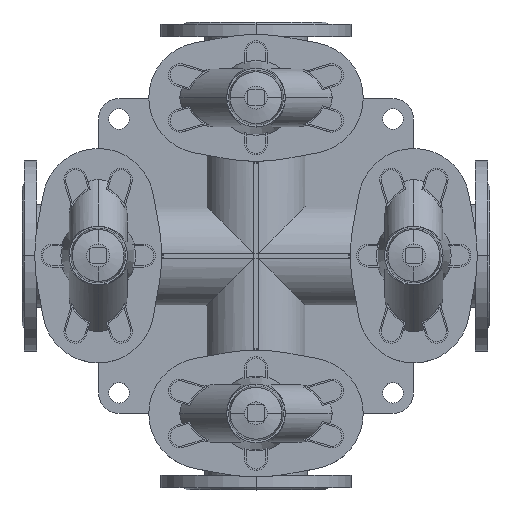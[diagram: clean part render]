
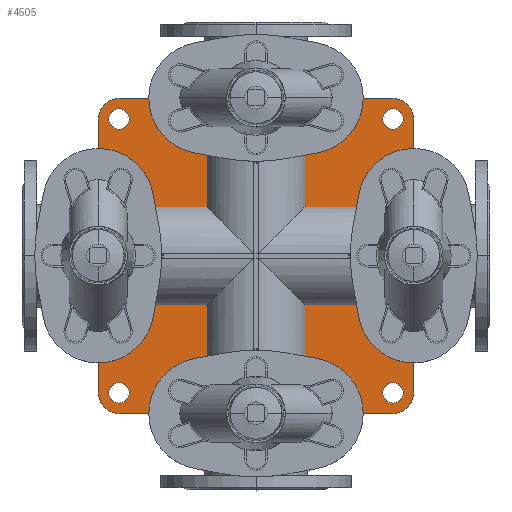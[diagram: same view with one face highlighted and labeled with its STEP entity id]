
A CAD part, top view. The second image highlights one B-rep face of the part: STEP entity #4505.
In plain terms, the highlighted planar face has unit normal (0, 0, 1).
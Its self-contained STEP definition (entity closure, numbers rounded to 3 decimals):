
#4505=ADVANCED_FACE('',(#9567,#9568,#9569,#9570,#9571),#9572,.F.);
#9567=FACE_BOUND('',#16791,.T.);
#9568=FACE_BOUND('',#16792,.T.);
#9569=FACE_BOUND('',#16793,.T.);
#9570=FACE_BOUND('',#16794,.T.);
#9571=FACE_OUTER_BOUND('',#16795,.T.);
#9572=PLANE('',#16796);
#16791=EDGE_LOOP('',(#24569,#24570));
#16792=EDGE_LOOP('',(#24571,#24572));
#16793=EDGE_LOOP('',(#24573,#24574));
#16794=EDGE_LOOP('',(#24575,#24576));
#16795=EDGE_LOOP('',(#24577,#24578,#24579,#24580,#24581,#24582,#24583,#24584));
#16796=AXIS2_PLACEMENT_3D('',#24585,#24586,#24587);
#24569=ORIENTED_EDGE('',*,*,#40059,.T.);
#24570=ORIENTED_EDGE('',*,*,#40060,.T.);
#24571=ORIENTED_EDGE('',*,*,#39598,.T.);
#24572=ORIENTED_EDGE('',*,*,#40061,.T.);
#24573=ORIENTED_EDGE('',*,*,#40062,.T.);
#24574=ORIENTED_EDGE('',*,*,#40063,.T.);
#24575=ORIENTED_EDGE('',*,*,#40064,.T.);
#24576=ORIENTED_EDGE('',*,*,#40065,.T.);
#24577=ORIENTED_EDGE('',*,*,#40066,.F.);
#24578=ORIENTED_EDGE('',*,*,#40067,.F.);
#24579=ORIENTED_EDGE('',*,*,#40068,.F.);
#24580=ORIENTED_EDGE('',*,*,#40069,.F.);
#24581=ORIENTED_EDGE('',*,*,#40070,.F.);
#24582=ORIENTED_EDGE('',*,*,#40071,.F.);
#24583=ORIENTED_EDGE('',*,*,#38639,.F.);
#24584=ORIENTED_EDGE('',*,*,#40072,.F.);
#24585=CARTESIAN_POINT('',(307.5,0.0,20.0));
#24586=DIRECTION('',(0.0,0.0,-1.0));
#24587=DIRECTION('',(-1.0,0.0,0.0));
#38639=EDGE_CURVE('',#45163,#45164,#45165,.T.);
#39598=EDGE_CURVE('',#46853,#46858,#46860,.T.);
#40059=EDGE_CURVE('',#47638,#47639,#47640,.T.);
#40060=EDGE_CURVE('',#47639,#47638,#47641,.T.);
#40061=EDGE_CURVE('',#46858,#46853,#47642,.T.);
#40062=EDGE_CURVE('',#47643,#47644,#47645,.T.);
#40063=EDGE_CURVE('',#47644,#47643,#47646,.T.);
#40064=EDGE_CURVE('',#47647,#47648,#47649,.T.);
#40065=EDGE_CURVE('',#47648,#47647,#47650,.T.);
#40066=EDGE_CURVE('',#47651,#47652,#47653,.T.);
#40067=EDGE_CURVE('',#47654,#47651,#47655,.T.);
#40068=EDGE_CURVE('',#47656,#47654,#47657,.T.);
#40069=EDGE_CURVE('',#47658,#47656,#47659,.T.);
#40070=EDGE_CURVE('',#47660,#47658,#47661,.T.);
#40071=EDGE_CURVE('',#45164,#47660,#47662,.T.);
#40072=EDGE_CURVE('',#47652,#45163,#47663,.T.);
#45163=VERTEX_POINT('',#54566);
#45164=VERTEX_POINT('',#54567);
#45165=LINE('',#54568,#54569);
#46853=VERTEX_POINT('',#56750);
#46858=VERTEX_POINT('',#56756);
#46860=CIRCLE('',#56759,13.5);
#47638=VERTEX_POINT('',#57747);
#47639=VERTEX_POINT('',#57748);
#47640=CIRCLE('',#57749,13.5);
#47641=CIRCLE('',#57750,13.5);
#47642=CIRCLE('',#57751,13.5);
#47643=VERTEX_POINT('',#57752);
#47644=VERTEX_POINT('',#57753);
#47645=CIRCLE('',#57754,13.5);
#47646=CIRCLE('',#57755,13.5);
#47647=VERTEX_POINT('',#57756);
#47648=VERTEX_POINT('',#57757);
#47649=CIRCLE('',#57758,13.5);
#47650=CIRCLE('',#57759,13.5);
#47651=VERTEX_POINT('',#57760);
#47652=VERTEX_POINT('',#57761);
#47653=LINE('',#57762,#57763);
#47654=VERTEX_POINT('',#57764);
#47655=CIRCLE('',#57765,27.0);
#47656=VERTEX_POINT('',#57766);
#47657=LINE('',#57767,#57768);
#47658=VERTEX_POINT('',#57769);
#47659=CIRCLE('',#57770,27.0);
#47660=VERTEX_POINT('',#57771);
#47661=LINE('',#57772,#57773);
#47662=CIRCLE('',#57774,27.0);
#47663=CIRCLE('',#57775,27.0);
#54566=CARTESIAN_POINT('',(100.5,-180.0,20.0));
#54567=CARTESIAN_POINT('',(100.5,180.0,20.0));
#54568=CARTESIAN_POINT('',(100.5,-180.0,20.0));
#54569=VECTOR('',#66513,1.0);
#56750=CARTESIAN_POINT('',(141.0,-180.0,20.0));
#56756=CARTESIAN_POINT('',(114.0,-180.0,20.0));
#56759=AXIS2_PLACEMENT_3D('',#67852,#67853,#67854);
#57747=CARTESIAN_POINT('',(141.0,180.0,20.0));
#57748=CARTESIAN_POINT('',(114.0,180.0,20.0));
#57749=AXIS2_PLACEMENT_3D('',#68512,#68513,#68514);
#57750=AXIS2_PLACEMENT_3D('',#68515,#68516,#68517);
#57751=AXIS2_PLACEMENT_3D('',#68518,#68519,#68520);
#57752=CARTESIAN_POINT('',(501.0,-180.0,20.0));
#57753=CARTESIAN_POINT('',(474.0,-180.0,20.0));
#57754=AXIS2_PLACEMENT_3D('',#68521,#68522,#68523);
#57755=AXIS2_PLACEMENT_3D('',#68524,#68525,#68526);
#57756=CARTESIAN_POINT('',(501.0,180.0,20.0));
#57757=CARTESIAN_POINT('',(474.0,180.0,20.0));
#57758=AXIS2_PLACEMENT_3D('',#68527,#68528,#68529);
#57759=AXIS2_PLACEMENT_3D('',#68530,#68531,#68532);
#57760=CARTESIAN_POINT('',(487.5,-207.0,20.0));
#57761=CARTESIAN_POINT('',(127.5,-207.0,20.0));
#57762=CARTESIAN_POINT('',(487.5,-207.0,20.0));
#57763=VECTOR('',#68533,1.0);
#57764=CARTESIAN_POINT('',(514.5,-180.0,20.0));
#57765=AXIS2_PLACEMENT_3D('',#68534,#68535,#68536);
#57766=CARTESIAN_POINT('',(514.5,180.0,20.0));
#57767=CARTESIAN_POINT('',(514.5,180.0,20.0));
#57768=VECTOR('',#68537,1.0);
#57769=CARTESIAN_POINT('',(487.5,207.0,20.0));
#57770=AXIS2_PLACEMENT_3D('',#68538,#68539,#68540);
#57771=CARTESIAN_POINT('',(127.5,207.0,20.0));
#57772=CARTESIAN_POINT('',(127.5,207.0,20.0));
#57773=VECTOR('',#68541,1.0);
#57774=AXIS2_PLACEMENT_3D('',#68542,#68543,#68544);
#57775=AXIS2_PLACEMENT_3D('',#68545,#68546,#68547);
#66513=DIRECTION('',(0.0,1.0,0.0));
#67852=CARTESIAN_POINT('',(127.5,-180.0,20.0));
#67853=DIRECTION('',(0.0,0.0,-1.0));
#67854=DIRECTION('',(1.0,0.0,0.0));
#68512=CARTESIAN_POINT('',(127.5,180.0,20.0));
#68513=DIRECTION('',(0.0,0.0,-1.0));
#68514=DIRECTION('',(1.0,0.0,0.0));
#68515=CARTESIAN_POINT('',(127.5,180.0,20.0));
#68516=DIRECTION('',(0.0,0.0,-1.0));
#68517=DIRECTION('',(1.0,0.0,0.0));
#68518=CARTESIAN_POINT('',(127.5,-180.0,20.0));
#68519=DIRECTION('',(0.0,0.0,-1.0));
#68520=DIRECTION('',(1.0,0.0,0.0));
#68521=CARTESIAN_POINT('',(487.5,-180.0,20.0));
#68522=DIRECTION('',(0.0,0.0,-1.0));
#68523=DIRECTION('',(1.0,0.0,0.0));
#68524=CARTESIAN_POINT('',(487.5,-180.0,20.0));
#68525=DIRECTION('',(0.0,0.0,-1.0));
#68526=DIRECTION('',(1.0,0.0,0.0));
#68527=CARTESIAN_POINT('',(487.5,180.0,20.0));
#68528=DIRECTION('',(0.0,0.0,-1.0));
#68529=DIRECTION('',(1.0,0.0,0.0));
#68530=CARTESIAN_POINT('',(487.5,180.0,20.0));
#68531=DIRECTION('',(0.0,0.0,-1.0));
#68532=DIRECTION('',(1.0,0.0,0.0));
#68533=DIRECTION('',(-1.0,0.0,0.0));
#68534=CARTESIAN_POINT('',(487.5,-180.0,20.0));
#68535=DIRECTION('',(0.0,0.0,-1.0));
#68536=DIRECTION('',(-1.0,0.0,0.0));
#68537=DIRECTION('',(0.0,-1.0,0.0));
#68538=CARTESIAN_POINT('',(487.5,180.0,20.0));
#68539=DIRECTION('',(0.0,0.0,-1.0));
#68540=DIRECTION('',(-1.0,0.0,0.0));
#68541=DIRECTION('',(1.0,0.0,0.0));
#68542=CARTESIAN_POINT('',(127.5,180.0,20.0));
#68543=DIRECTION('',(0.0,0.0,-1.0));
#68544=DIRECTION('',(-1.0,0.0,0.0));
#68545=CARTESIAN_POINT('',(127.5,-180.0,20.0));
#68546=DIRECTION('',(0.0,0.0,-1.0));
#68547=DIRECTION('',(-1.0,0.0,0.0));
